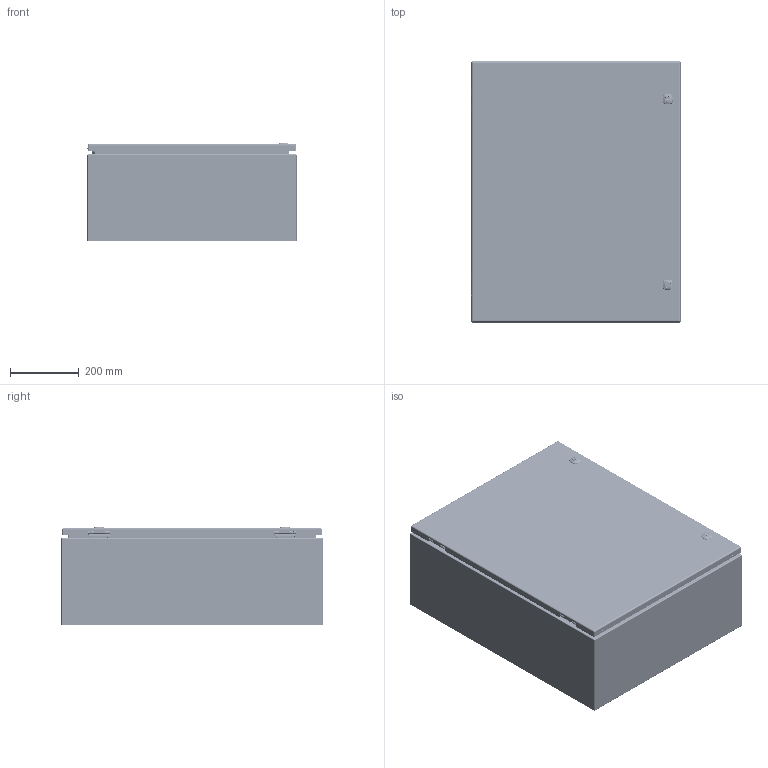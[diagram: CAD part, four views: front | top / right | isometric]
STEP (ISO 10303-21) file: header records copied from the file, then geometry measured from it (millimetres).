
FILE_DESCRIPTION(/* description */ ('5412ES 30" x 24" x 10" Assembly'),/* implementation_level */ '2;1');
FILE_NAME(/* name */ '5412ESB302410.stp',/* time_stamp */ '2024-01-17T16:53:48-05:00',/* author */ ('BoxCad'),/* organization */ (''),/* preprocessor_version */ 'ST-DEVELOPER v20',/* originating_system */ 'Autodesk Inventor 2024',/* authorisation */ '');
FILE_SCHEMA (('AUTOMOTIVE_DESIGN { 1 0 10303 214 3 1 1 }'));
Products named in the file (43): 5412ESB302410; 5412ESB302410B; 5412ESB302410B-P; STK-Q-16005; STUD_M6 x 16mm; 5412ESB302410C; 5412ESB302410C-P; 5412ESB302410G; STK-K-09800; STK-K-09800-2; STK-Q-33014; STK-Q-90398; STK-Q-40095; STK-Q-63410; STK-Q-16055; STK-Q-46020-30; STK-Q-07220-1; STK-Q-07220-2; STK-Q-07220-3; STK-Q-07220-4; STK-Q-07220-A; STK-Q-07220-B; STK-P-03820R; STK-S-00100; STK-K-12500; STK-Q-78111; STK-Q-78141; STK-Q-78120; STK-Q-78145; STK-Q-03200; STK-Q-78160; STK-Q-90390; STK-Q-78111-R; STK-Q-04050-08-1; STK-Q-04050-08-2; STK-Q-04050-08-P; STK-Q-04051-N; STK-A-01800; 5412ESB302410IPK; STK-Q-07610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
Assembly tree (73 placements, depth 4):
  5412ESB302410
    5412ESB302410B
      5412ESB302410B-P
      STK-Q-16005  x4
      STK-P-03820R
      STUD_M6 x 16mm
    5412ESB302410C
      5412ESB302410C-P
      5412ESB302410G
      STK-K-09800
        STK-Q-33014
        STK-Q-90398
        STK-Q-40095  x2
        STK-Q-63410  x2
      STK-K-09800-2
        STK-Q-33014
        STK-Q-90398
        STK-Q-40095  x2
        STK-Q-63410  x2
      STK-Q-16055  x4
      STK-Q-46020-30  x2
      STK-Q-07220-1
        STK-Q-07220-A
        STK-Q-07220-B
      STK-Q-07220-2
        STK-Q-07220-A
        STK-Q-07220-B
      STK-Q-07220-3
        STK-Q-07220-A
        STK-Q-07220-B
      STK-Q-07220-4
        STK-Q-07220-A
        STK-Q-07220-B
      STK-P-03820R
      STK-S-00100
      STK-K-12500  x2
        STK-Q-78111
        STK-Q-78141
        STK-Q-78120
        STK-Q-78145
        STK-Q-03200
        STK-Q-78160
        STK-Q-90390
        STK-Q-78111-R
    STK-Q-04050-08-1
      STK-Q-04050-08-P
      STK-Q-04051-N
    STK-Q-04050-08-2
      STK-Q-04050-08-P
      STK-Q-04051-N
    STK-A-01800
    5412ESB302410IPK
      STK-Q-07610  x4
      STK-Q-07310  x4
    881SP3024G
      881SP3024G-P
Bounding box: 609.67 x 762 x 287.27 mm (x, y, z)
Volume: 3786419.1 mm3; surface area: 4698328.5 mm2
Topology: 64 solids, 64 shells, 9864 faces, 26045 edges, 16340 vertices
Faces by surface type: bspline 3330, plane 2843, cylinder 2616, torus 719, sphere 220, cone 136
Full cylindrical faces by diameter (mm): 0 x1, 0.75 x9, 0.762 x9, 1 x8, 1.1 x8, 3.2 x4, 4.191 x52, 4.5 x4, 4.521 x8, 4.75 x2, 4.85 x16, 4.95 x4, 5 x4, 5.1 x30, 5.156 x4, 5.6 x2, 5.9 x25, 6.015 x52, 6.65 x4, 6.8 x4, 6.85 x8, 7.3 x2, 7.366 x4, 7.9 x8, 8 x12, 8.382 x2, 9.5 x4, 9.6 x2, 9.906 x4, 10 x2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
Entity records: 153998 total; most frequent: CARTESIAN_POINT 61158, ORIENTED_EDGE 20950, DIRECTION 15910, EDGE_CURVE 10475, VERTEX_POINT 6558, AXIS2_PLACEMENT_3D 5878, EDGE_LOOP 4363, LINE 4154
